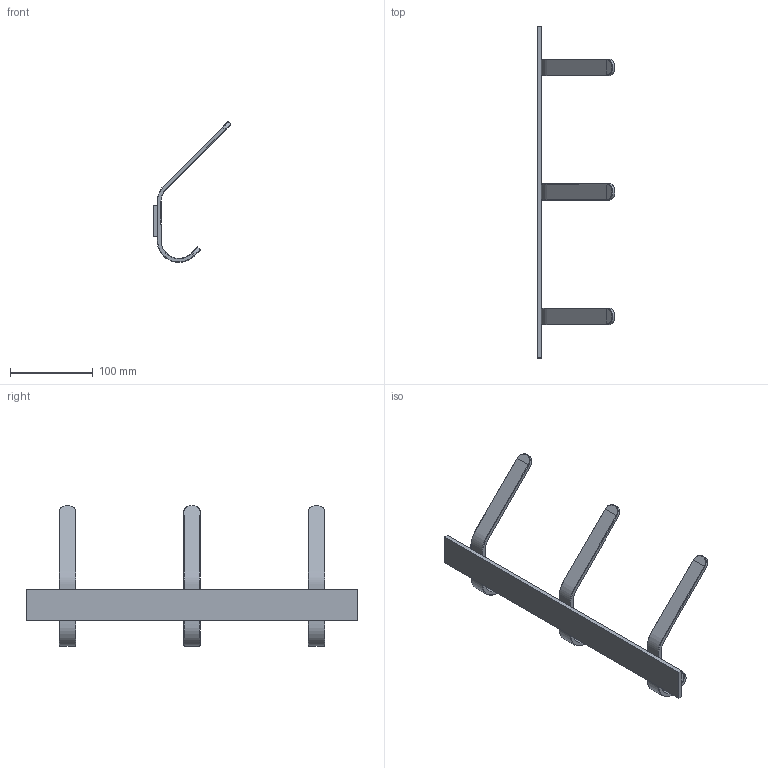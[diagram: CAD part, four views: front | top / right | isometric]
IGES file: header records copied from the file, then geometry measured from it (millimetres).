
Global section: file name: N:\e15\ ENTWICKLUNG\E15_PRODUKTE_DWG_DXF\neue_Produkte_2012\FK_UNI\3er Haken\3D\120327_FK08_UNI_3er_Isometrie.igs; native system: VectorWorks; preprocessor: HarmonyWare IGES v1.5.9; date: 20120328.111321; units: millimetre
Bounding box: 93.91 x 400 x 169.69 mm (x, y, z)
Volume: 147456.1 mm3; surface area: 71371.4 mm2
Topology: 10 solids, 10 shells, 108 faces, 240 edges, 152 vertices
Faces by surface type: bspline 108
